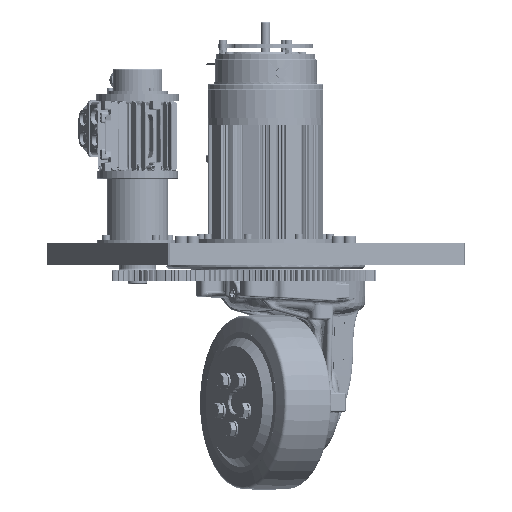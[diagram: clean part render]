
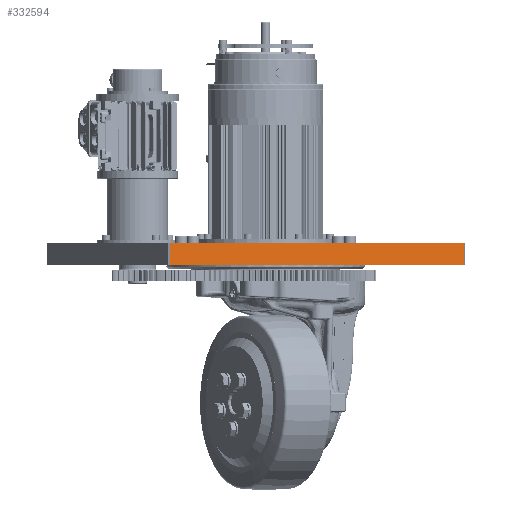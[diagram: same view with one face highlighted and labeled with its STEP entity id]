
A CAD part, front view. The second image highlights one B-rep face of the part: STEP entity #332594.
In plain terms, the highlighted planar face has unit normal (0.5, -0.866, 0).
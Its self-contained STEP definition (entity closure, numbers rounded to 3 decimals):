
#16133=PLANE('',#357797);
#33851=LINE('',#511384,#60072);
#33914=LINE('',#511679,#60135);
#33916=LINE('',#511702,#60137);
#33920=LINE('',#511710,#60141);
#60072=VECTOR('',#411549,10.);
#60135=VECTOR('',#411850,10.);
#60137=VECTOR('',#411874,10.);
#60141=VECTOR('',#411886,10.);
#84538=FACE_OUTER_BOUND('',#103586,.T.);
#103586=EDGE_LOOP('',(#243703,#243704,#243705,#243706));
#145264=VERTEX_POINT('',#511380);
#145266=VERTEX_POINT('',#511383);
#145365=VERTEX_POINT('',#511665);
#145371=VERTEX_POINT('',#511677);
#181686=EDGE_CURVE('',#145266,#145264,#33851,.T.);
#181822=EDGE_CURVE('',#145365,#145371,#33914,.T.);
#181834=EDGE_CURVE('',#145365,#145264,#33916,.T.);
#181838=EDGE_CURVE('',#145266,#145371,#33920,.T.);
#243703=ORIENTED_EDGE('',*,*,#181834,.F.);
#243704=ORIENTED_EDGE('',*,*,#181822,.T.);
#243705=ORIENTED_EDGE('',*,*,#181838,.F.);
#243706=ORIENTED_EDGE('',*,*,#181686,.T.);
#332594=ADVANCED_FACE('',(#84538),#16133,.T.);
#357797=AXIS2_PLACEMENT_3D('',#511712,#411888,#411889);
#411549=DIRECTION('',(-0.866,-0.5,0.));
#411850=DIRECTION('',(0.866,0.5,0.));
#411874=DIRECTION('',(0.,0.,1.));
#411886=DIRECTION('',(0.,0.,-1.));
#411888=DIRECTION('center_axis',(0.5,-0.866,0.));
#411889=DIRECTION('ref_axis',(0.,0.,
1.));
#511380=CARTESIAN_POINT('',(-125.624,-228.413,49.5));
#511383=CARTESIAN_POINT('',(260.624,-5.413,49.5));
#511384=CARTESIAN_POINT('',(245.035,-14.413,49.5));
#511665=CARTESIAN_POINT('',(-125.624,-228.413,21.));
#511677=CARTESIAN_POINT('',(260.624,-5.413,21.));
#511679=CARTESIAN_POINT('',(164.928,-60.663,21.));
#511702=CARTESIAN_POINT('',(-125.624,-228.413,20.));
#511710=CARTESIAN_POINT('',(260.624,-5.413,20.));
#511712=CARTESIAN_POINT('Origin',(262.356,-4.413,20.));
